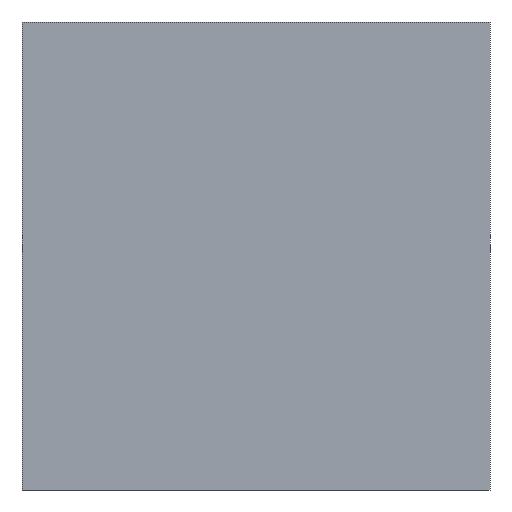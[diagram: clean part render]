
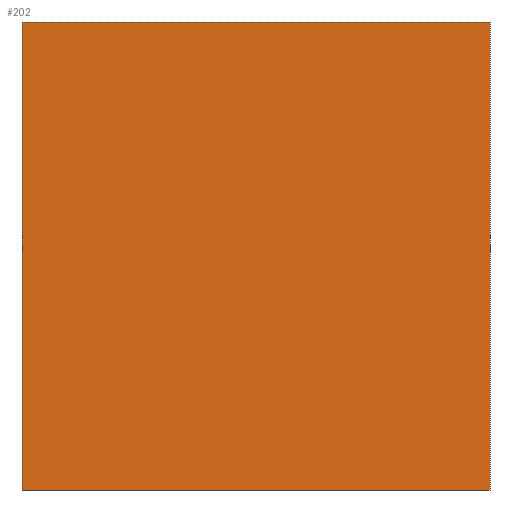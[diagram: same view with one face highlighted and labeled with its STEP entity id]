
A CAD part, left-side view. The second image highlights one B-rep face of the part: STEP entity #202.
In plain terms, the highlighted planar face has unit normal (-1, 0, 0).
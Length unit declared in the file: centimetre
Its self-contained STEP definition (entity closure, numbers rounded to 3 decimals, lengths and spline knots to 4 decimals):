
#4 = EDGE_CURVE ( 'NONE', #209, #464, #224, .T. ) ;
#15 = CARTESIAN_POINT ( 'NONE',  ( 0., 1000., 1000. ) ) ;
#40 = EDGE_LOOP ( 'NONE', ( #120, #82, #429, #79 ) ) ;
#57 = CARTESIAN_POINT ( 'NONE',  ( 0., 1000., 1000. ) ) ;
#62 = DIRECTION ( 'NONE',  ( 0., 0., -1. ) ) ;
#79 = ORIENTED_EDGE ( 'NONE', *, *, #378, .T. ) ;
#82 = ORIENTED_EDGE ( 'NONE', *, *, #164, .F. ) ;
#101 = CARTESIAN_POINT ( 'NONE',  ( 0., 0., 1000. ) ) ;
#111 = CARTESIAN_POINT ( 'NONE',  ( 0., 1000., 0. ) ) ;
#120 = ORIENTED_EDGE ( 'NONE', *, *, #505, .T. ) ;
#143 = CARTESIAN_POINT ( 'NONE',  ( 0., 1000., 1000. ) ) ;
#164 = EDGE_CURVE ( 'NONE', #464, #432, #300, .T. ) ;
#202 = ADVANCED_FACE ( 'NONE', ( #211 ), #257, .F. ) ;
#209 = VERTEX_POINT ( 'NONE', #15 ) ;
#211 = FACE_OUTER_BOUND ( 'NONE', #40, .T. ) ;
#224 = LINE ( 'NONE', #458, #434 ) ;
#252 = VECTOR ( 'NONE', #407, 100. ) ;
#255 = DIRECTION ( 'NONE',  ( 0., 0., -1. ) ) ;
#257 = PLANE ( 'NONE',  #365 ) ;
#286 = CARTESIAN_POINT ( 'NONE',  ( 0., 0., 1000. ) ) ;
#298 = VECTOR ( 'NONE', #255, 100. ) ;
#300 = LINE ( 'NONE', #286, #425 ) ;
#302 = CARTESIAN_POINT ( 'NONE',  ( 0., 1000., 0. ) ) ;
#316 = DIRECTION ( 'NONE',  ( 0., -1., 0. ) ) ;
#365 = AXIS2_PLACEMENT_3D ( 'NONE', #143, #375, #370 ) ;
#370 = DIRECTION ( 'NONE',  ( 0., 0., -1. ) ) ;
#375 = DIRECTION ( 'NONE',  ( 1., 0., 0. ) ) ;
#376 = LINE ( 'NONE', #57, #298 ) ;
#378 = EDGE_CURVE ( 'NONE', #209, #394, #376, .T. ) ;
#394 = VERTEX_POINT ( 'NONE', #302 ) ;
#407 = DIRECTION ( 'NONE',  ( 0., -1., 0. ) ) ;
#425 = VECTOR ( 'NONE', #62, 100. ) ;
#429 = ORIENTED_EDGE ( 'NONE', *, *, #4, .F. ) ;
#432 = VERTEX_POINT ( 'NONE', #495 ) ;
#434 = VECTOR ( 'NONE', #316, 100. ) ;
#458 = CARTESIAN_POINT ( 'NONE',  ( 0., 1000., 1000. ) ) ;
#464 = VERTEX_POINT ( 'NONE', #101 ) ;
#490 = LINE ( 'NONE', #111, #252 ) ;
#495 = CARTESIAN_POINT ( 'NONE',  ( 0., 0., 0. ) ) ;
#505 = EDGE_CURVE ( 'NONE', #394, #432, #490, .T. ) ;
